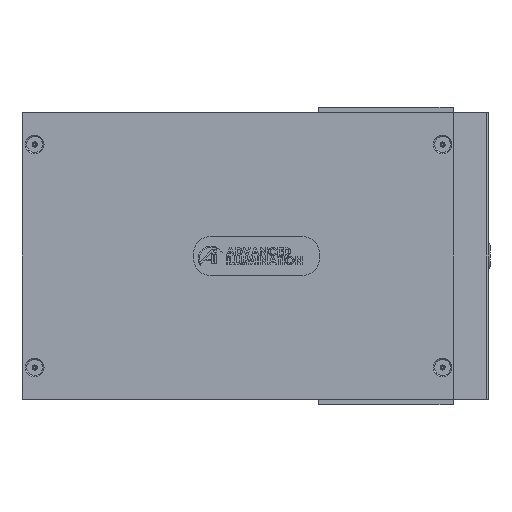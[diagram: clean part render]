
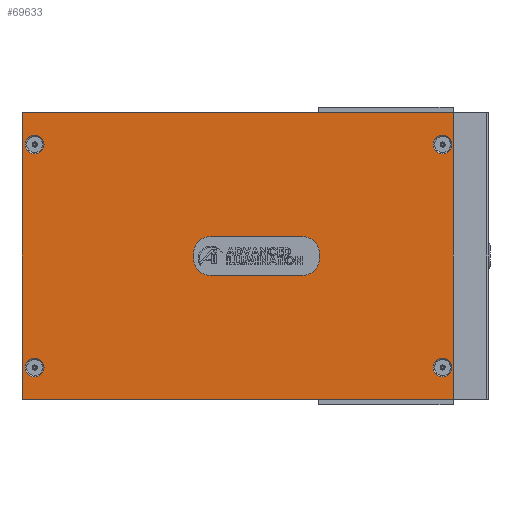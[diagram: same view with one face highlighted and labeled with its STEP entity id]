
A CAD part, left-side view. The second image highlights one B-rep face of the part: STEP entity #69633.
In plain terms, the highlighted planar face has unit normal (-1, 0, 0) as drawn and (0, -1, 0) by its records, which use the part's own axes.
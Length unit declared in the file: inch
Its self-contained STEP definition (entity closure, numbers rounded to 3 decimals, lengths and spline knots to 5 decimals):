
#921 = EDGE_LOOP ( 'NONE', ( #71741, #33330 ) ) ;
#1366 = VERTEX_POINT ( 'NONE', #5580 ) ;
#1507 = EDGE_CURVE ( 'NONE', #16206, #22570, #44592, .T. ) ;
#1872 = EDGE_CURVE ( 'NONE', #12381, #56351, #3105, .T. ) ;
#3105 = CIRCLE ( 'NONE', #48485, 0.1405 ) ;
#3940 = AXIS2_PLACEMENT_3D ( 'NONE', #29193, #74519, #34525 ) ;
#5496 = DIRECTION ( 'NONE',  ( 0., 1., 0. ) ) ;
#5580 = CARTESIAN_POINT ( 'NONE',  ( -2.7735, -0.0625, 1.522 ) ) ;
#5706 = DIRECTION ( 'NONE',  ( 1., 0., 0. ) ) ;
#6564 = DIRECTION ( 'NONE',  ( 0., 0., 1. ) ) ;
#6595 = AXIS2_PLACEMENT_3D ( 'NONE', #56797, #51537, #16330 ) ;
#7394 = ORIENTED_EDGE ( 'NONE', *, *, #23966, .T. ) ;
#7395 = CARTESIAN_POINT ( 'NONE',  ( 3.3075, -0.0625, 1.6625 ) ) ;
#7551 = ORIENTED_EDGE ( 'NONE', *, *, #53136, .T. ) ;
#7991 = VERTEX_POINT ( 'NONE', #55877 ) ;
#8141 = EDGE_LOOP ( 'NONE', ( #33405, #17275 ) ) ;
#10442 = FACE_BOUND ( 'NONE', #8141, .T. ) ;
#11773 = CARTESIAN_POINT ( 'NONE',  ( -2.9305, -0.0625, 2.1325 ) ) ;
#12381 = VERTEX_POINT ( 'NONE', #67034 ) ;
#12582 = EDGE_CURVE ( 'NONE', #7991, #1366, #64035, .T. ) ;
#12696 = CARTESIAN_POINT ( 'NONE',  ( -2.7735, -0.0625, -1.803 ) ) ;
#14467 = EDGE_CURVE ( 'NONE', #22570, #23001, #29510, .T. ) ;
#15875 = FACE_BOUND ( 'NONE', #37651, .T. ) ;
#16206 = VERTEX_POINT ( 'NONE', #26253 ) ;
#16330 = DIRECTION ( 'NONE',  ( 0., 0., 1. ) ) ;
#16676 = DIRECTION ( 'NONE',  ( 0., 1., 0. ) ) ;
#16705 = PLANE ( 'NONE',  #38049 ) ;
#17275 = ORIENTED_EDGE ( 'NONE', *, *, #12582, .T. ) ;
#18187 = DIRECTION ( 'NONE',  ( 0., 1., 0. ) ) ;
#19020 = DIRECTION ( 'NONE',  ( 0., 1., 0. ) ) ;
#20117 = EDGE_CURVE ( 'NONE', #68041, #16206, #56768, .T. ) ;
#21622 = EDGE_LOOP ( 'NONE', ( #56998, #7551 ) ) ;
#21877 = CARTESIAN_POINT ( 'NONE',  ( -2.9305, -0.0625, -2.1325 ) ) ;
#22238 = DIRECTION ( 'NONE',  ( 0., 0., 1. ) ) ;
#22328 = VECTOR ( 'NONE', #72887, 39.37008 ) ;
#22427 = EDGE_CURVE ( 'NONE', #1366, #7991, #68537, .T. ) ;
#22502 = EDGE_CURVE ( 'NONE', #41310, #29941, #56818, .T. ) ;
#22570 = VERTEX_POINT ( 'NONE', #45562 ) ;
#22731 = DIRECTION ( 'NONE',  ( 0., 1., 0. ) ) ;
#23001 = VERTEX_POINT ( 'NONE', #21877 ) ;
#23966 = EDGE_CURVE ( 'NONE', #53868, #38484, #53858, .T. ) ;
#24779 = DIRECTION ( 'NONE',  ( 0., 0., 1. ) ) ;
#26091 = EDGE_LOOP ( 'NONE', ( #42667, #62211, #43121, #61254 ) ) ;
#26253 = CARTESIAN_POINT ( 'NONE',  ( 3.4955, -0.0625, 2.1325 ) ) ;
#28456 = AXIS2_PLACEMENT_3D ( 'NONE', #28517, #68283, #22238 ) ;
#28517 = CARTESIAN_POINT ( 'NONE',  ( 3.3075, -0.0625, -1.6625 ) ) ;
#29193 = CARTESIAN_POINT ( 'NONE',  ( -2.7735, -0.0625, -1.6625 ) ) ;
#29271 = VECTOR ( 'NONE', #58839, 39.37008 ) ;
#29510 = LINE ( 'NONE', #55240, #22328 ) ;
#29941 = VERTEX_POINT ( 'NONE', #59657 ) ;
#31720 = CARTESIAN_POINT ( 'NONE',  ( -2.7735, -0.0625, -1.6625 ) ) ;
#33330 = ORIENTED_EDGE ( 'NONE', *, *, #42092, .F. ) ;
#33405 = ORIENTED_EDGE ( 'NONE', *, *, #22427, .T. ) ;
#34525 = DIRECTION ( 'NONE',  ( 0., 0., -1. ) ) ;
#35629 = FACE_OUTER_BOUND ( 'NONE', #26091, .T. ) ;
#37651 = EDGE_LOOP ( 'NONE', ( #7394, #72240 ) ) ;
#38049 = AXIS2_PLACEMENT_3D ( 'NONE', #40530, #22731, #51407 ) ;
#38484 = VERTEX_POINT ( 'NONE', #50886 ) ;
#39754 = CARTESIAN_POINT ( 'NONE',  ( 3.3075, -0.0625, 1.522 ) ) ;
#40530 = CARTESIAN_POINT ( 'NONE',  ( -3.4955, -0.0625, 2.1325 ) ) ;
#40577 = VECTOR ( 'NONE', #5706, 39.37008 ) ;
#41310 = VERTEX_POINT ( 'NONE', #12696 ) ;
#42092 = EDGE_CURVE ( 'NONE', #29941, #41310, #51774, .T. ) ;
#42454 = EDGE_CURVE ( 'NONE', #38484, #53868, #53471, .T. ) ;
#42667 = ORIENTED_EDGE ( 'NONE', *, *, #20117, .F. ) ;
#43121 = ORIENTED_EDGE ( 'NONE', *, *, #14467, .F. ) ;
#44592 = LINE ( 'NONE', #47795, #29271 ) ;
#45365 = AXIS2_PLACEMENT_3D ( 'NONE', #68966, #16676, #51123 ) ;
#45562 = CARTESIAN_POINT ( 'NONE',  ( 3.4955, -0.0625, -2.1325 ) ) ;
#47795 = CARTESIAN_POINT ( 'NONE',  ( 3.4955, -0.0625, -2.1325 ) ) ;
#48485 = AXIS2_PLACEMENT_3D ( 'NONE', #56536, #5496, #74428 ) ;
#49916 = VECTOR ( 'NONE', #57784, 39.37008 ) ;
#50886 = CARTESIAN_POINT ( 'NONE',  ( 3.3075, -0.0625, 1.803 ) ) ;
#51123 = DIRECTION ( 'NONE',  ( 0., 0., 1. ) ) ;
#51407 = DIRECTION ( 'NONE',  ( 0., 0., 1. ) ) ;
#51537 = DIRECTION ( 'NONE',  ( 0., 1., 0. ) ) ;
#51774 = CIRCLE ( 'NONE', #68784, 0.1405 ) ;
#51964 = CARTESIAN_POINT ( 'NONE',  ( 3.3075, -0.0625, -1.522 ) ) ;
#52282 = AXIS2_PLACEMENT_3D ( 'NONE', #7395, #19020, #24779 ) ;
#52601 = CARTESIAN_POINT ( 'NONE',  ( -2.7735, -0.0625, 1.6625 ) ) ;
#53136 = EDGE_CURVE ( 'NONE', #56351, #12381, #70012, .T. ) ;
#53471 = CIRCLE ( 'NONE', #6595, 0.1405 ) ;
#53858 = CIRCLE ( 'NONE', #52282, 0.1405 ) ;
#53868 = VERTEX_POINT ( 'NONE', #39754 ) ;
#54534 = FACE_BOUND ( 'NONE', #21622, .T. ) ;
#55240 = CARTESIAN_POINT ( 'NONE',  ( -3.4955, -0.0625, -2.1325 ) ) ;
#55877 = CARTESIAN_POINT ( 'NONE',  ( -2.7735, -0.0625, 1.803 ) ) ;
#55981 = EDGE_CURVE ( 'NONE', #68041, #23001, #69690, .T. ) ;
#56351 = VERTEX_POINT ( 'NONE', #51964 ) ;
#56504 = AXIS2_PLACEMENT_3D ( 'NONE', #52601, #18187, #6564 ) ;
#56536 = CARTESIAN_POINT ( 'NONE',  ( 3.3075, -0.0625, -1.6625 ) ) ;
#56768 = LINE ( 'NONE', #68601, #40577 ) ;
#56797 = CARTESIAN_POINT ( 'NONE',  ( 3.3075, -0.0625, 1.6625 ) ) ;
#56818 = CIRCLE ( 'NONE', #3940, 0.1405 ) ;
#56998 = ORIENTED_EDGE ( 'NONE', *, *, #1872, .T. ) ;
#57784 = DIRECTION ( 'NONE',  ( 0., 0., -1. ) ) ;
#58839 = DIRECTION ( 'NONE',  ( 0., 0., -1. ) ) ;
#59344 = DIRECTION ( 'NONE',  ( 0., 0., -1. ) ) ;
#59657 = CARTESIAN_POINT ( 'NONE',  ( -2.7735, -0.0625, -1.522 ) ) ;
#61254 = ORIENTED_EDGE ( 'NONE', *, *, #1507, .F. ) ;
#62211 = ORIENTED_EDGE ( 'NONE', *, *, #55981, .T. ) ;
#64035 = CIRCLE ( 'NONE', #56504, 0.1405 ) ;
#67034 = CARTESIAN_POINT ( 'NONE',  ( 3.3075, -0.0625, -1.803 ) ) ;
#68041 = VERTEX_POINT ( 'NONE', #70965 ) ;
#68283 = DIRECTION ( 'NONE',  ( 0., 1., 0. ) ) ;
#68537 = CIRCLE ( 'NONE', #45365, 0.1405 ) ;
#68601 = CARTESIAN_POINT ( 'NONE',  ( -3.4955, -0.0625, 2.1325 ) ) ;
#68784 = AXIS2_PLACEMENT_3D ( 'NONE', #31720, #71971, #59344 ) ;
#68966 = CARTESIAN_POINT ( 'NONE',  ( -2.7735, -0.0625, 1.6625 ) ) ;
#69633 = ADVANCED_FACE ( 'NONE', ( #69840, #15875, #35629, #10442, #54534 ), #16705, .F. ) ;
#69690 = LINE ( 'NONE', #11773, #49916 ) ;
#69840 = FACE_BOUND ( 'NONE', #921, .T. ) ;
#70012 = CIRCLE ( 'NONE', #28456, 0.1405 ) ;
#70965 = CARTESIAN_POINT ( 'NONE',  ( -2.9305, -0.0625, 2.1325 ) ) ;
#71741 = ORIENTED_EDGE ( 'NONE', *, *, #22502, .F. ) ;
#71971 = DIRECTION ( 'NONE',  ( 0., -1., 0. ) ) ;
#72240 = ORIENTED_EDGE ( 'NONE', *, *, #42454, .T. ) ;
#72887 = DIRECTION ( 'NONE',  ( -1., 0., 0. ) ) ;
#74428 = DIRECTION ( 'NONE',  ( 0., 0., 1. ) ) ;
#74519 = DIRECTION ( 'NONE',  ( 0., -1., 0. ) ) ;
